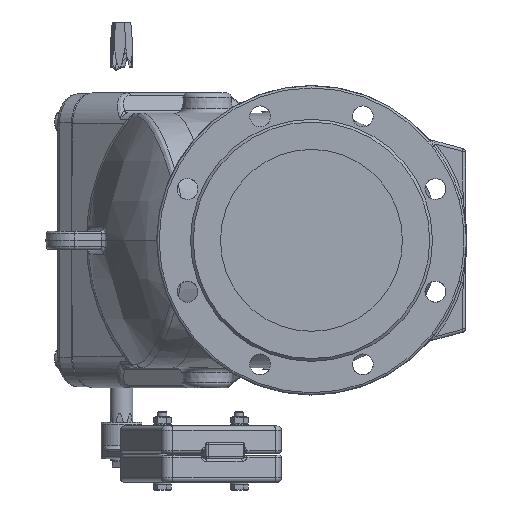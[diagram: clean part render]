
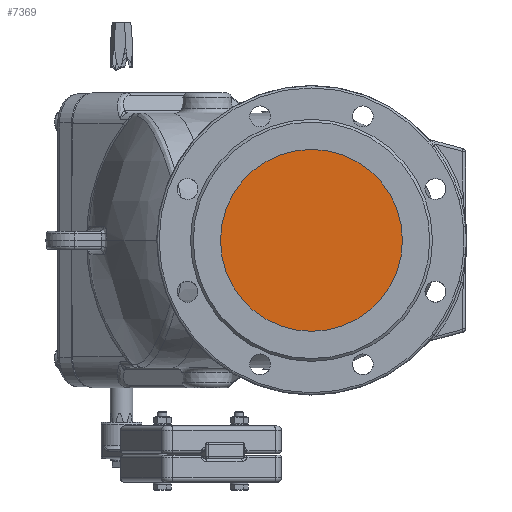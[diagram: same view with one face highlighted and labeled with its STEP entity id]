
A CAD part, left-side view. The second image highlights one B-rep face of the part: STEP entity #7369.
In plain terms, the highlighted planar face has unit normal (-1, 0, 0).
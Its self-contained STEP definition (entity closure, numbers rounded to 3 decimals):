
#7369=ADVANCED_FACE('',(#20574),#20576,.F.);
#20574=FACE_BOUND('',#20575,.T.);
#20575=EDGE_LOOP('',(#27985,#27986));
#20576=PLANE('',#20577);
#20577=AXIS2_PLACEMENT_3D('',#20578,#20579,#20580);
#20578=CARTESIAN_POINT('',(-240.,0.,0.));
#20579=DIRECTION('',(1.,0.,0.));
#20580=DIRECTION('',(0.,0.,-1.));
#27985=ORIENTED_EDGE('',*,*,#32098,.T.);
#27986=ORIENTED_EDGE('',*,*,#32099,.T.);
#32098=EDGE_CURVE('',#36416,#36417,#36418,.T.);
#32099=EDGE_CURVE('',#36417,#36416,#36419,.T.);
#36416=VERTEX_POINT('',#78154);
#36417=VERTEX_POINT('',#78155);
#36418=CIRCLE('',#78156,100.);
#36419=CIRCLE('',#78160,100.);
#78154=CARTESIAN_POINT('',(-240.,0.,-100.));
#78155=CARTESIAN_POINT('',(-240.,100.,0.));
#78156=AXIS2_PLACEMENT_3D('',#78157,#78158,#78159);
#78157=CARTESIAN_POINT('',(-240.,0.,0.));
#78158=DIRECTION('',(-1.,0.,0.));
#78159=DIRECTION('',(0.,0.,-1.));
#78160=AXIS2_PLACEMENT_3D('',#78161,#78162,#78163);
#78161=CARTESIAN_POINT('',(-240.,0.,0.));
#78162=DIRECTION('',(-1.,0.,0.));
#78163=DIRECTION('',(0.,1.,0.));
